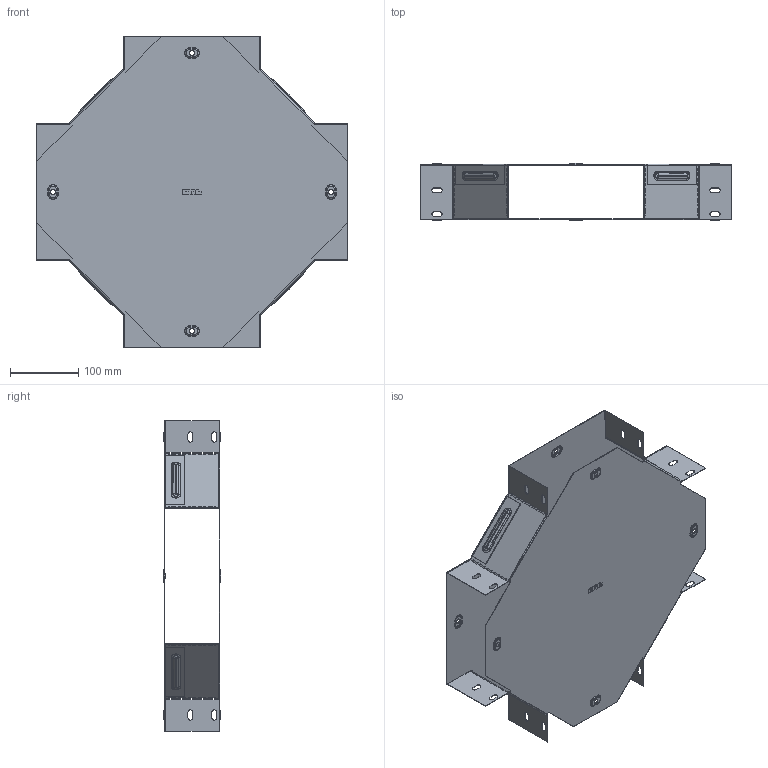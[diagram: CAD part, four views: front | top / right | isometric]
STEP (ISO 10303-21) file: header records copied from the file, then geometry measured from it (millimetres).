
FILE_DESCRIPTION (( 'STEP AP214' ), '1' );
FILE_NAME ('x8020008_捘.STEP', '2019-06-10T07:50:51', ( '砐錪賧瘔蠈錪 Windows' ), ( '' ), 'SwSTEP 2.0', 'SolidWorks 2018', '' );
FILE_SCHEMA (( 'AUTOMOTIVE_DESIGN' ));
Length unit declared in the file: millimetre
Products named in the file (1): x8020008_捘
Bounding box: 455.01 x 83.8 x 455.01 mm (x, y, z)
Volume: 297934.6 mm3; surface area: 750102 mm2
Topology: 2 solids, 2 shells, 948 faces, 2796 edges, 1816 vertices
Faces by surface type: plane 486, cylinder 316, torus 128, bspline 18
Entity records: 32683 total; most frequent: CARTESIAN_POINT 6519, ORIENTED_EDGE 5592, DIRECTION 5446, EDGE_CURVE 2796, LINE 1936, VECTOR 1936, VERTEX_POINT 1816, AXIS2_PLACEMENT_3D 1755
